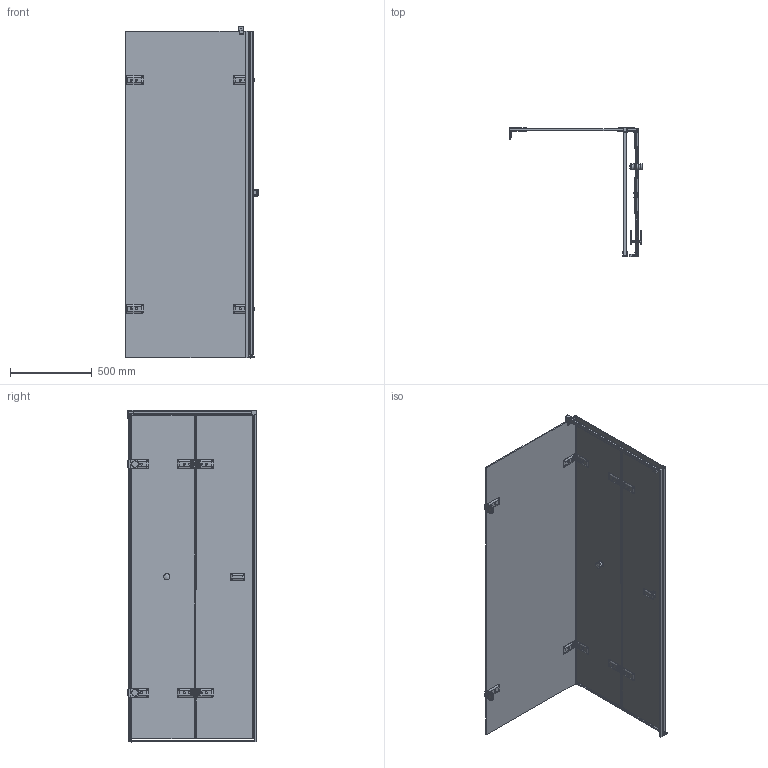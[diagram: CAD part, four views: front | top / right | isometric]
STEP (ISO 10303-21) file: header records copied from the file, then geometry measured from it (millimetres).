
FILE_DESCRIPTION(/* description */ (''),/* implementation_level */ '2;1');
FILE_NAME(/* name */ 'D:\11\TREND SQUARE GK-863AC\TREND SQUARE GK-863AC правая модель\TREND SQUARE GK-863AC ПРАВАЯ-3D.stp',/* time_stamp */ '2021-07-29T20:16:46+03:00',/* author */ ('User'),/* organization */ (''),/* preprocessor_version */ 'ST-DEVELOPER v15.2',/* originating_system */ 'Autodesk Inventor 2014',/* authorisation */ '');
FILE_SCHEMA (('AUTOMOTIVE_DESIGN { 1 0 10303 214 3 1 1 }'));
Products named in the file (1): TREND SQUARE GK-863AC ПРАВАЯ-
3D
Bounding box: 816.68 x 790.48 x 2032 mm (x, y, z)
Volume: 23483423.8 mm3; surface area: 6976075.3 mm2
Topology: 3 solids, 20 shells, 2661 faces, 7024 edges, 4409 vertices
Faces by surface type: plane 1563, cylinder 698, bspline 254, cone 73, torus 50, sphere 23
Full cylindrical faces by diameter (mm): 4 x2, 4.134 x2, 4.2 x6, 4.917 x6, 5 x6, 5.2 x3, 6 x12, 7 x2, 7.2 x4, 8 x3, 9 x16, 11 x3, 13 x12, 16 x12, 28 x2, 28.5 x2, 30 x2, 38 x4, 40 x2
Entity records: 114401 total; most frequent: CARTESIAN_POINT 47595, ORIENTED_EDGE 13434, DIRECTION 12974, EDGE_CURVE 6712, AXIS2_PLACEMENT_3D 4446, VERTEX_POINT 4344, LINE 4082, VECTOR 4082
